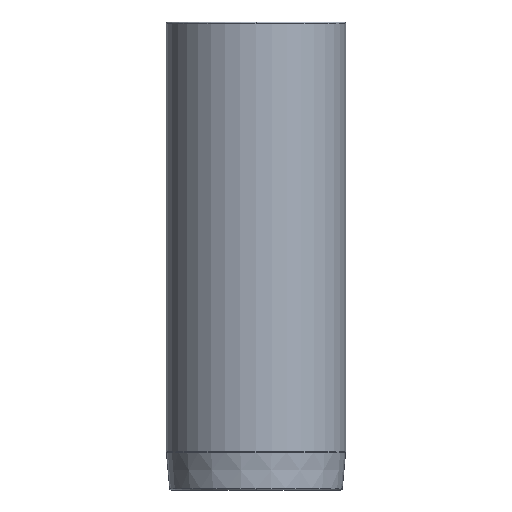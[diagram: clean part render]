
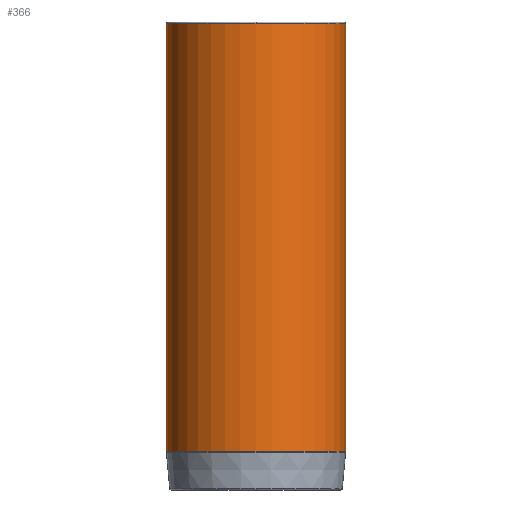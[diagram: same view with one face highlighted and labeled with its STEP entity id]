
A CAD part, front view. The second image highlights one B-rep face of the part: STEP entity #366.
In plain terms, the highlighted cylindrical face has radius 30.625 mm (diameter 61.25 mm), a partial arc.
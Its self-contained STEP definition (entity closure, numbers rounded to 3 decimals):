
#271=CARTESIAN_POINT('',(0.0,-30.625,68.5));
#272=VERTEX_POINT('',#271);
#298=CARTESIAN_POINT('',(-30.625,0.,68.5));
#299=VERTEX_POINT('',#298);
#307=CARTESIAN_POINT('',(0.0,0.,68.5));
#308=DIRECTION('',(0.0,0.0,1.0));
#309=DIRECTION('',(1.0,0.0,0.0));
#310=AXIS2_PLACEMENT_3D('',#307,#308,#309);
#311=CIRCLE('',#310,30.625);
#312=EDGE_CURVE('',#299,#272,#311,.T.);
#317=CARTESIAN_POINT('',(0.0,0.,-4.728));
#318=DIRECTION('',(0.0,0.,1.0));
#319=DIRECTION('',(1.0,0.0,0.0));
#320=AXIS2_PLACEMENT_3D('',#317,#318,#319);
#321=CYLINDRICAL_SURFACE('',#320,30.625);
#322=CARTESIAN_POINT('',(30.625,0.,68.5));
#323=VERTEX_POINT('',#322);
#324=CARTESIAN_POINT('',(30.625,0.,-77.956));
#325=VERTEX_POINT('',#324);
#326=CARTESIAN_POINT('',(30.625,0.,68.5));
#327=DIRECTION('',(0.0,0.0,-1.0));
#328=VECTOR('',#327,146.456);
#329=LINE('',#326,#328);
#330=EDGE_CURVE('',#323,#325,#329,.T.);
#331=ORIENTED_EDGE('',*,*,#330,.F.);
#332=CARTESIAN_POINT('',(0.0,0.,68.5));
#333=DIRECTION('',(0.0,0.0,1.0));
#334=DIRECTION('',(1.0,0.0,0.0));
#335=AXIS2_PLACEMENT_3D('',#332,#333,#334);
#336=CIRCLE('',#335,30.625);
#337=EDGE_CURVE('',#272,#323,#336,.T.);
#338=ORIENTED_EDGE('',*,*,#337,.F.);
#339=ORIENTED_EDGE('',*,*,#312,.F.);
#340=CARTESIAN_POINT('',(-30.625,0.,-77.956));
#341=VERTEX_POINT('',#340);
#342=CARTESIAN_POINT('',(-30.625,0.,68.5));
#343=DIRECTION('',(0.0,0.0,-1.0));
#344=VECTOR('',#343,146.456);
#345=LINE('',#342,#344);
#346=EDGE_CURVE('',#299,#341,#345,.T.);
#347=ORIENTED_EDGE('',*,*,#346,.T.);
#348=CARTESIAN_POINT('',(0.0,-30.625,-77.956));
#349=VERTEX_POINT('',#348);
#350=CARTESIAN_POINT('',(0.0,0.,-77.956));
#351=DIRECTION('',(0.0,0.0,1.0));
#352=DIRECTION('',(1.0,0.0,0.0));
#353=AXIS2_PLACEMENT_3D('',#350,#351,#352);
#354=CIRCLE('',#353,30.625);
#355=EDGE_CURVE('',#341,#349,#354,.T.);
#356=ORIENTED_EDGE('',*,*,#355,.T.);
#357=CARTESIAN_POINT('',(0.0,0.,-77.956));
#358=DIRECTION('',(0.0,0.0,1.0));
#359=DIRECTION('',(1.0,0.0,0.0));
#360=AXIS2_PLACEMENT_3D('',#357,#358,#359);
#361=CIRCLE('',#360,30.625);
#362=EDGE_CURVE('',#349,#325,#361,.T.);
#363=ORIENTED_EDGE('',*,*,#362,.T.);
#364=EDGE_LOOP('',(#331,#338,#339,#347,#356,#363));
#365=FACE_OUTER_BOUND('',#364,.T.);
#366=ADVANCED_FACE('',(#365),#321,.T.);
